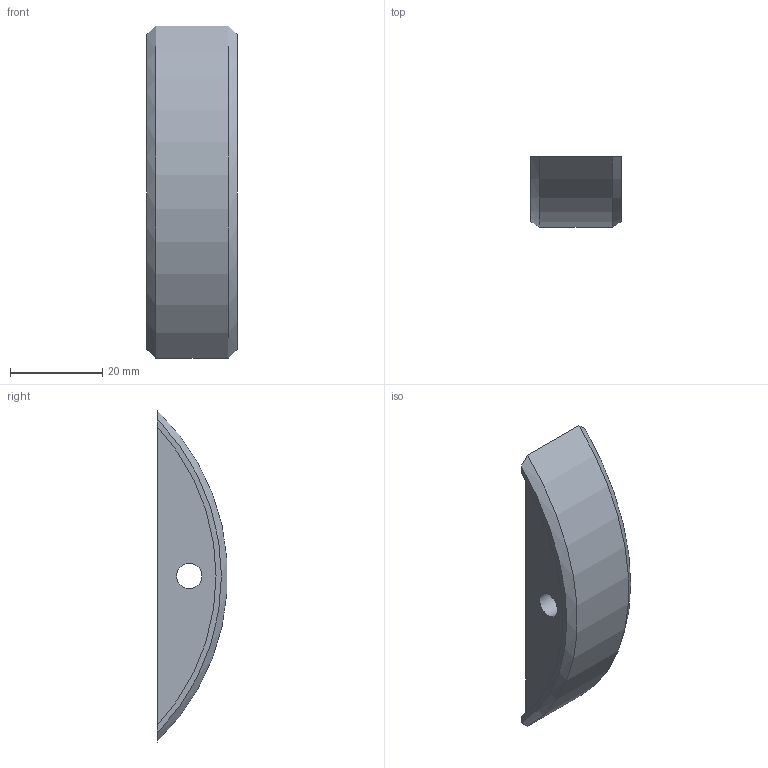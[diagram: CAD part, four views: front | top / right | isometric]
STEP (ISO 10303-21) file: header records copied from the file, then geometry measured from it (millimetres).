
FILE_DESCRIPTION(/* description */ (''),/* implementation_level */ '2;1');
FILE_NAME(/* name */ '335331v.stp',/* time_stamp */ '2024-08-23T09:51:01+02:00',/* author */ ('simond'),/* organization */ (''),/* preprocessor_version */ 'ST-DEVELOPER v19.2',/* originating_system */ 'Autodesk Inventor 2023',/* authorisation */ '');
FILE_SCHEMA (('AUTOMOTIVE_DESIGN { 1 0 10303 214 3 1 1 }'));
Length unit declared in the file: millimetre
Products named in the file (1): Tandem 25
Bounding box: 19.6 x 15.17 x 72 mm (x, y, z)
Volume: 7865.3 mm3; surface area: 6139.8 mm2
Topology: 1 solids, 1 shells, 19 faces, 48 edges, 32 vertices
Faces by surface type: plane 9, cylinder 8, cone 2
Full cylindrical faces by diameter (mm): 5.5 x2
Entity records: 664 total; most frequent: CARTESIAN_POINT 108, DIRECTION 102, ORIENTED_EDGE 96, EDGE_CURVE 48, AXIS2_PLACEMENT_3D 38, VERTEX_POINT 32, LINE 26, VECTOR 26
